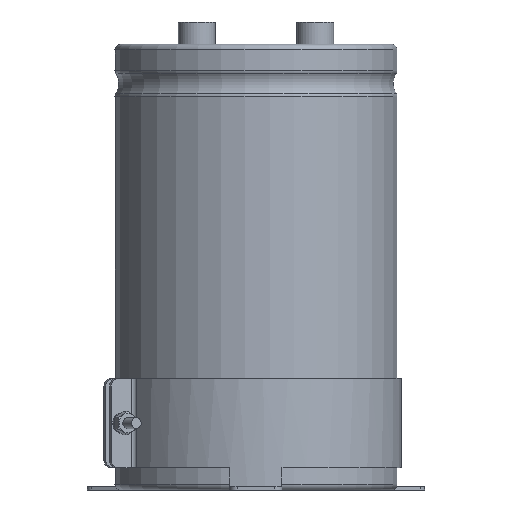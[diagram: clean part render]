
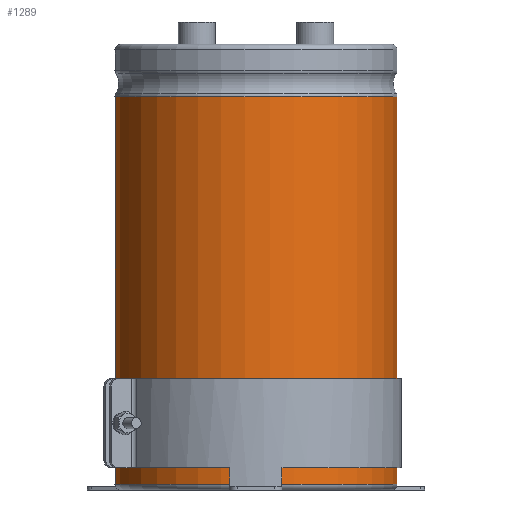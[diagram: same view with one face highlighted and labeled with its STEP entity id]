
A CAD part, left-side view. The second image highlights one B-rep face of the part: STEP entity #1289.
In plain terms, the highlighted cylindrical face has radius 38.1 mm (diameter 76.2 mm), a partial arc.
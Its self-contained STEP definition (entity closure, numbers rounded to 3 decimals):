
#233=LINE('',#6601,#447);
#234=LINE('',#6605,#448);
#447=VECTOR('',#5224,1.);
#448=VECTOR('',#5227,1.);
#695=FACE_OUTER_BOUND('',#1741,.T.);
#1289=ADVANCED_FACE('',(#695),#1519,.T.);
#1519=CYLINDRICAL_SURFACE('',#4585,38.1);
#1741=EDGE_LOOP('',(#2147,#2148,#2149,#2150));
#2147=ORIENTED_EDGE('',*,*,#3702,.T.);
#2148=ORIENTED_EDGE('',*,*,#3703,.T.);
#2149=ORIENTED_EDGE('',*,*,#3704,.F.);
#2150=ORIENTED_EDGE('',*,*,#3705,.F.);
#3274=VERTEX_POINT('',#6594);
#3276=VERTEX_POINT('',#6598);
#3277=VERTEX_POINT('',#6602);
#3278=VERTEX_POINT('',#6604);
#3702=EDGE_CURVE('',#3274,#3276,#4267,.T.);
#3703=EDGE_CURVE('',#3276,#3277,#233,.T.);
#3704=EDGE_CURVE('',#3278,#3277,#4268,.T.);
#3705=EDGE_CURVE('',#3274,#3278,#234,.T.);
#4267=CIRCLE('',#4582,38.1);
#4268=CIRCLE('',#4584,38.1);
#4582=AXIS2_PLACEMENT_3D('',#6599,#5220,#5221);
#4584=AXIS2_PLACEMENT_3D('',#6603,#5225,#5226);
#4585=AXIS2_PLACEMENT_3D('',#6606,#5228,#5229);
#5220=DIRECTION('',(0.,0.,-1.));
#5221=DIRECTION('',(0.,1.,0.));
#5224=DIRECTION('',(0.,0.,-1.));
#5225=DIRECTION('',(0.,0.,-1.));
#5226=DIRECTION('',(0.,1.,0.));
#5227=DIRECTION('',(0.,0.,-1.));
#5228=DIRECTION('',(0.,0.,-1.));
#5229=DIRECTION('',(0.,1.,0.));
#6594=CARTESIAN_POINT('',(3.983,37.891,105.9));
#6598=CARTESIAN_POINT('',(-3.983,37.891,105.9));
#6599=CARTESIAN_POINT('',(0.,0.,105.9));
#6601=CARTESIAN_POINT('',(-3.983,37.891,105.9));
#6602=CARTESIAN_POINT('',(-3.983,37.891,1.5));
#6603=CARTESIAN_POINT('',(0.,0.,1.5));
#6604=CARTESIAN_POINT('',(3.983,37.891,1.5));
#6605=CARTESIAN_POINT('',(3.983,37.891,105.9));
#6606=CARTESIAN_POINT('',(0.,0.,0.));
